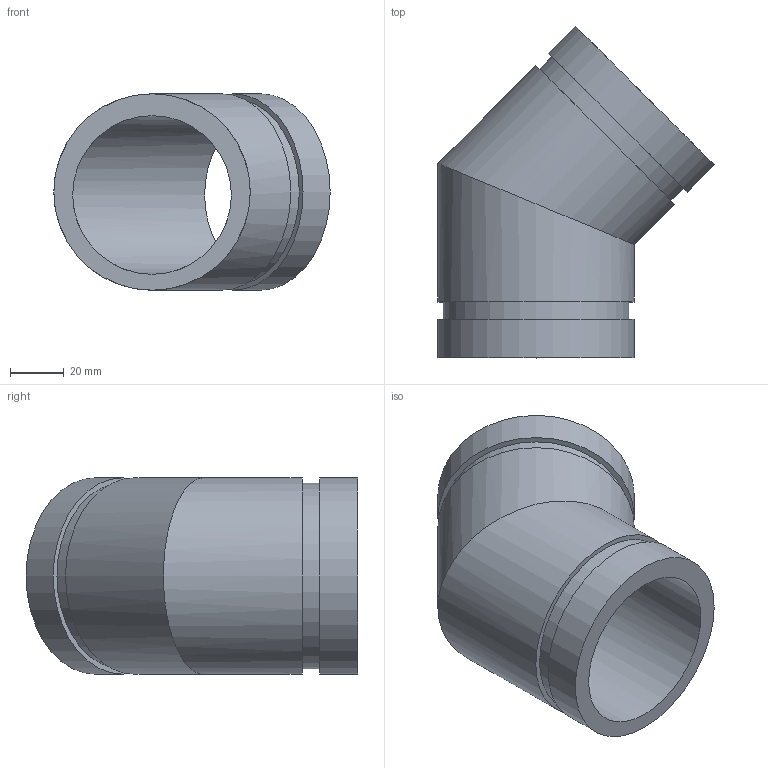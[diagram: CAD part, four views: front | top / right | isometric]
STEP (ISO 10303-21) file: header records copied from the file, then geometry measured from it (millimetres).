
FILE_DESCRIPTION(/* description */ ('VIC 45 DEG. EXTRA HEAVY ELBOW No 63-ES','CAx-IF Rec.Pracs.---Representation and Presentation of Product Manufacturing Information (PMI)---4.0---2014-10-13'),/* implementation_level */ '2;1');
FILE_NAME(/* name */ 'C:\Users\kkamble\AppData\Roaming\Autodesk\ApplicationPlugins\Back Up\Victaulic_IPS-EndSeal_Elbow 45 Deg LR_No 63-ES (ESG)\Victaulic_IPS-EndSeal_Elbow 45 Deg LR_No 63-ES (ESG)_2.5 (65).stp',/* time_stamp */ '2020-08-04T18:51:27+05:00',/* author */ ('cgray'),/* organization */ ('Victaulic'),/* preprocessor_version */ 'ST-DEVELOPER v17.2',/* originating_system */ 'Autodesk Inventor 2019',/* authorisation */ '');
FILE_SCHEMA (('AP242_MANAGED_MODEL_BASED_3D_ENGINEERING_MIM_LF { 1 0 10303 442 1 1 4 }'));
Length unit declared in the file: inch
Products named in the file (1): 63-ES-02.5
Bounding box: 102.74 x 123.38 x 73.03 mm (x, y, z)
Volume: 160487.7 mm3; surface area: 51914.9 mm2
Topology: 1 solids, 1 shells, 14 faces, 30 edges, 22 vertices
Faces by surface type: cylinder 8, plane 6
Full cylindrical faces by diameter (mm): 59.004 x2, 69.088 x2, 73.025 x4
Entity records: 554 total; most frequent: DIRECTION 108, CARTESIAN_POINT 84, ORIENTED_EDGE 60, AXIS2_PLACEMENT_3D 50, EDGE_CURVE 30, VERTEX_POINT 22, EDGE_LOOP 20, CIRCLE 16
